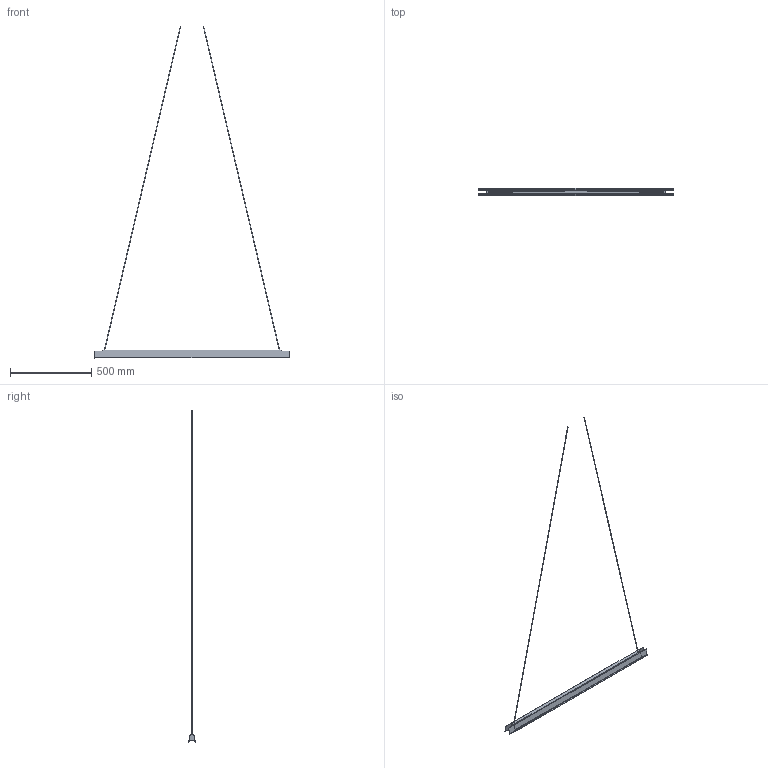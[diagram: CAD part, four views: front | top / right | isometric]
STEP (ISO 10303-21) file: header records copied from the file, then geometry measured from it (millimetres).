
FILE_DESCRIPTION(/* description */ (''),/* implementation_level */ '2;1');
FILE_NAME(/* name */ 'ILKW_TRYANGLE120_A_Pendant_3D.igs',/* time_stamp */ '2026-08-28T16:34:17+09:00',/* author */ (''),/* organization */ (''),/* preprocessor_version */ 'ST-DEVELOPER v19.2',/* originating_system */ 'Rhino 8.21',/* authorisation */ '');
FILE_SCHEMA (('CONFIG_CONTROL_DESIGN'));
Length unit declared in the file: millimetre
Products named in the file (1): Document
Bounding box: 1199.6 x 47.73 x 2047.76 mm (x, y, z)
Volume: 1562138.8 mm3; surface area: 529916.1 mm2
Topology: 6 solids, 8 shells, 82 faces, 180 edges, 112 vertices
Faces by surface type: plane 36, cylinder 28, bspline 18
Entity records: 2669 total; most frequent: CARTESIAN_POINT 1128, ORIENTED_EDGE 344, EDGE_CURVE 176, DIRECTION 170, AXIS2_PLACEMENT_3D 116, B_SPLINE_CURVE_WITH_KNOTS 110, VERTEX_POINT 108, ADVANCED_FACE 82
